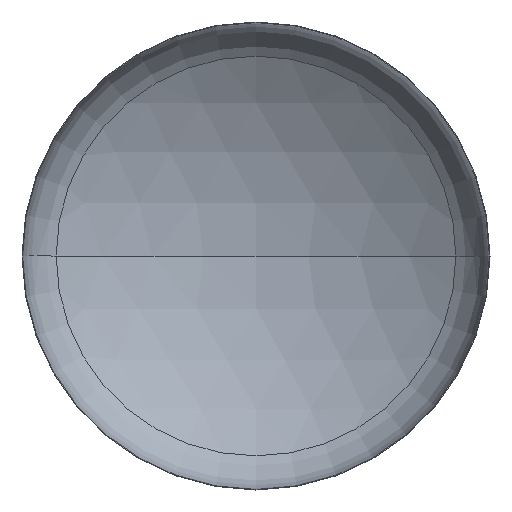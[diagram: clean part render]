
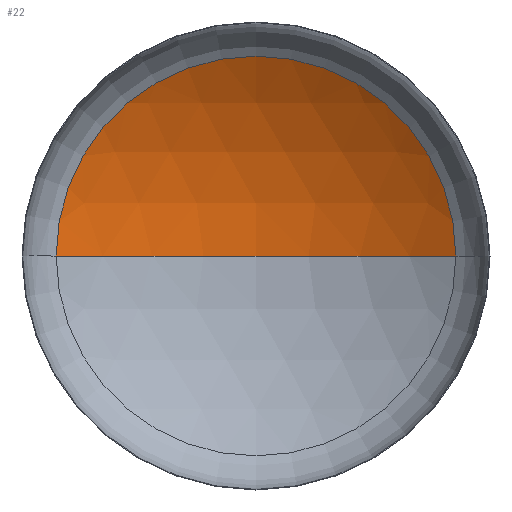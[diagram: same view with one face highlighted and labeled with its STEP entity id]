
A CAD part, front view. The second image highlights one B-rep face of the part: STEP entity #22.
In plain terms, the highlighted spherical face has radius 5200 mm.
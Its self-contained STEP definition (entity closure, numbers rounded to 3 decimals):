
#8 = ORIENTED_EDGE ( 'NONE', *, *, #323, .F. ) ;
#22 = ADVANCED_FACE ( 'NONE', ( #204 ), #273, .F. ) ;
#26 = CARTESIAN_POINT ( 'NONE',  ( 0., 870.605, 0. ) ) ;
#43 = VERTEX_POINT ( 'NONE', #197 ) ;
#79 = VERTEX_POINT ( 'NONE', #244 ) ;
#85 = DIRECTION ( 'NONE',  ( 0., 0., -1. ) ) ;
#88 = VERTEX_POINT ( 'NONE', #302 ) ;
#90 = DIRECTION ( 'NONE',  ( -1., 0., 0. ) ) ;
#97 = CARTESIAN_POINT ( 'NONE',  ( 0., -3526.54, 0. ) ) ;
#111 = EDGE_LOOP ( 'NONE', ( #8, #128, #141 ) ) ;
#128 = ORIENTED_EDGE ( 'NONE', *, *, #303, .T. ) ;
#133 = AXIS2_PLACEMENT_3D ( 'NONE', #26, #205, #382 ) ;
#141 = ORIENTED_EDGE ( 'NONE', *, *, #367, .T. ) ;
#197 = CARTESIAN_POINT ( 'NONE',  ( 2775.81, 870.605, 0. ) ) ;
#200 = CARTESIAN_POINT ( 'NONE',  ( 0., -3526.54, 0. ) ) ;
#204 = FACE_OUTER_BOUND ( 'NONE', #111, .T. ) ;
#205 = DIRECTION ( 'NONE',  ( 0., -1., 0. ) ) ;
#214 = DIRECTION ( 'NONE',  ( -1., 0., 0. ) ) ;
#244 = CARTESIAN_POINT ( 'NONE',  ( 0., 1673.46, 0. ) ) ;
#251 = DIRECTION ( 'NONE',  ( 0., 0., -1. ) ) ;
#273 = SPHERICAL_SURFACE ( 'NONE', #370, 5200. ) ;
#277 = CIRCLE ( 'NONE', #376, 5200. ) ;
#287 = CIRCLE ( 'NONE', #337, 5200. ) ;
#302 = CARTESIAN_POINT ( 'NONE',  ( -2775.81, 870.605, 0. ) ) ;
#303 = EDGE_CURVE ( 'NONE', #79, #43, #287, .T. ) ;
#323 = EDGE_CURVE ( 'NONE', #79, #88, #277, .T. ) ;
#334 = DIRECTION ( 'NONE',  ( 1., 0., 0. ) ) ;
#336 = CARTESIAN_POINT ( 'NONE',  ( 0., -3526.54, 0. ) ) ;
#337 = AXIS2_PLACEMENT_3D ( 'NONE', #97, #85, #90 ) ;
#367 = EDGE_CURVE ( 'NONE', #43, #88, #388, .T. ) ;
#370 = AXIS2_PLACEMENT_3D ( 'NONE', #336, #251, #214 ) ;
#376 = AXIS2_PLACEMENT_3D ( 'NONE', #200, #395, #334 ) ;
#382 = DIRECTION ( 'NONE',  ( 1., 0., 0. ) ) ;
#388 = CIRCLE ( 'NONE', #133, 2775.81 ) ;
#395 = DIRECTION ( 'NONE',  ( 0., 0., 1. ) ) ;
